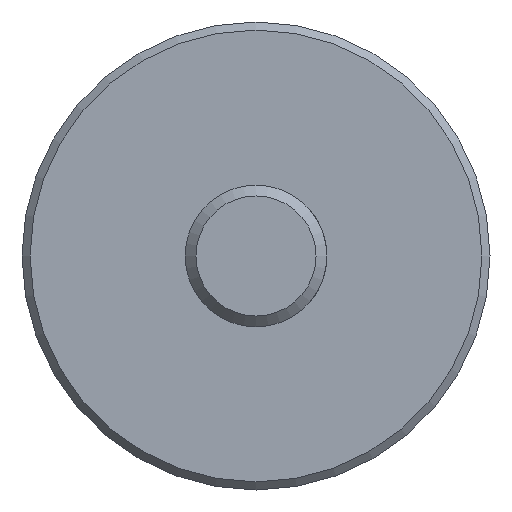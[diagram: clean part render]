
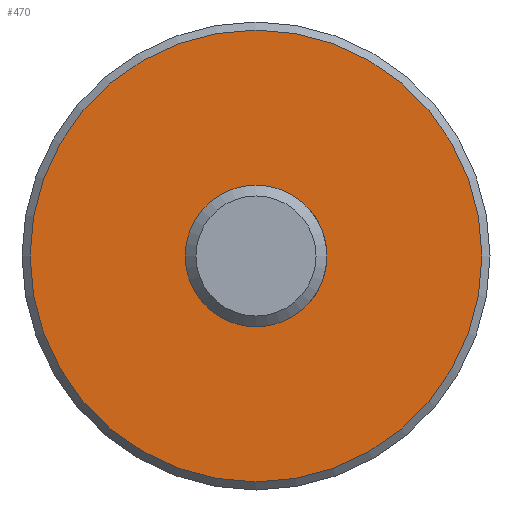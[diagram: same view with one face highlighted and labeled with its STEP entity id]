
A CAD part, front view. The second image highlights one B-rep face of the part: STEP entity #470.
In plain terms, the highlighted planar face has unit normal (0, -1, 0).
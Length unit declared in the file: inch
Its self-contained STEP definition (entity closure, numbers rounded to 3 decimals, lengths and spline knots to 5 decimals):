
#1 = DIRECTION ( 'NONE',  ( 0., 0., 1. ) ) ;
#15 = CARTESIAN_POINT ( 'NONE',  ( 0., 3.33, 1.255 ) ) ;
#24 = CARTESIAN_POINT ( 'NONE',  ( 0., 3.33, 0. ) ) ;
#44 = CARTESIAN_POINT ( 'NONE',  ( 0., 3.33, 0. ) ) ;
#53 = DIRECTION ( 'NONE',  ( 0., 1., 0. ) ) ;
#55 = EDGE_CURVE ( 'NONE', #320, #320, #378, .T. ) ;
#83 = EDGE_LOOP ( 'NONE', ( #168 ) ) ;
#108 = AXIS2_PLACEMENT_3D ( 'NONE', #233, #310, #183 ) ;
#139 = ORIENTED_EDGE ( 'NONE', *, *, #483, .F. ) ;
#149 = DIRECTION ( 'NONE',  ( 0., 0., 1. ) ) ;
#168 = ORIENTED_EDGE ( 'NONE', *, *, #55, .T. ) ;
#183 = DIRECTION ( 'NONE',  ( 0., 0., 1. ) ) ;
#188 = AXIS2_PLACEMENT_3D ( 'NONE', #24, #359, #149 ) ;
#194 = FACE_OUTER_BOUND ( 'NONE', #333, .T. ) ;
#227 = PLANE ( 'NONE',  #108 ) ;
#233 = CARTESIAN_POINT ( 'NONE',  ( 0.3937, 3.33, 0. ) ) ;
#310 = DIRECTION ( 'NONE',  ( 0., 1., 0. ) ) ;
#320 = VERTEX_POINT ( 'NONE', #458 ) ;
#333 = EDGE_LOOP ( 'NONE', ( #139 ) ) ;
#359 = DIRECTION ( 'NONE',  ( 0., 1., 0. ) ) ;
#378 = CIRCLE ( 'NONE', #188, 0.3937 ) ;
#433 = AXIS2_PLACEMENT_3D ( 'NONE', #44, #53, #1 ) ;
#458 = CARTESIAN_POINT ( 'NONE',  ( 0., 3.33, 0.3937 ) ) ;
#470 = ADVANCED_FACE ( 'NONE', ( #194, #575 ), #227, .F. ) ;
#483 = EDGE_CURVE ( 'NONE', #505, #505, #499, .T. ) ;
#499 = CIRCLE ( 'NONE', #433, 1.255 ) ;
#505 = VERTEX_POINT ( 'NONE', #15 ) ;
#575 = FACE_BOUND ( 'NONE', #83, .T. ) ;
